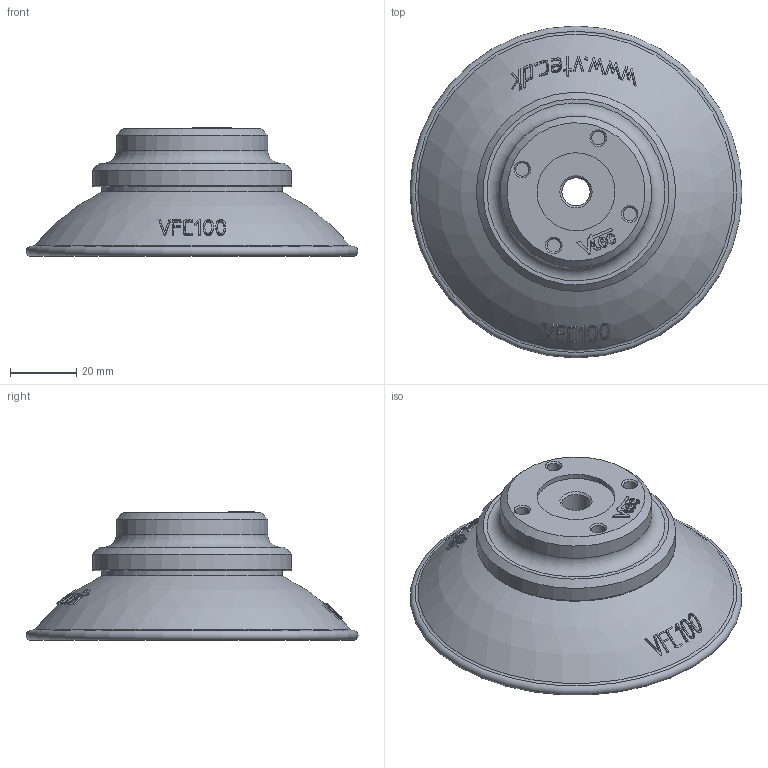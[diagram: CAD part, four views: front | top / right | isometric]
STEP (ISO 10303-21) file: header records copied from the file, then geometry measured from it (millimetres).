
FILE_DESCRIPTION( ( 'STEP AP203' ), '1' );
FILE_NAME( 'C:/Documents and Settings/Owner/官帕 拳搁/3D/Vacuum Pad/VFC series/VFC100-18F.stp', '2006-04-25T05:08:03', ( ' ' ), ( ' ' ), 'XStep 1.0', ' ', ' ' );
FILE_SCHEMA( ( 'CONFIG_CONTROL_DESIGN) ( )' ) );
Length unit declared in the file: metre
Products named in the file (3): Assem1; 1; 2
Bounding box: 100 x 100 x 38.8 mm (x, y, z)
Volume: 137090.3 mm3; surface area: 75647.3 mm2
Topology: 4 solids, 4 shells, 806 faces, 1956 edges, 1300 vertices
Faces by surface type: bspline 256, plane 218, cylinder 180, sphere 112, cone 22, torus 14, extrusion 4
Full cylindrical faces by diameter (mm): 0.791 x2, 4 x16, 6.7 x16, 8.5 x2, 15 x2, 20 x2, 23.5 x2, 45.6 x2, 50 x2, 54.5 x2, 55 x2, 60 x2
Entity records: 19363 total; most frequent: CARTESIAN_POINT 10761, ORIENTED_EDGE 1820, DIRECTION 1434, EDGE_CURVE 910, VERTEX_POINT 634, AXIS2_PLACEMENT_3D 578, EDGE_LOOP 546, FACE_OUTER_BOUND 443
